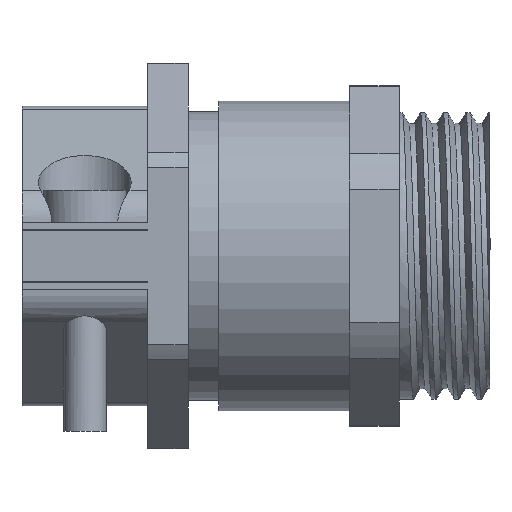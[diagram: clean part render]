
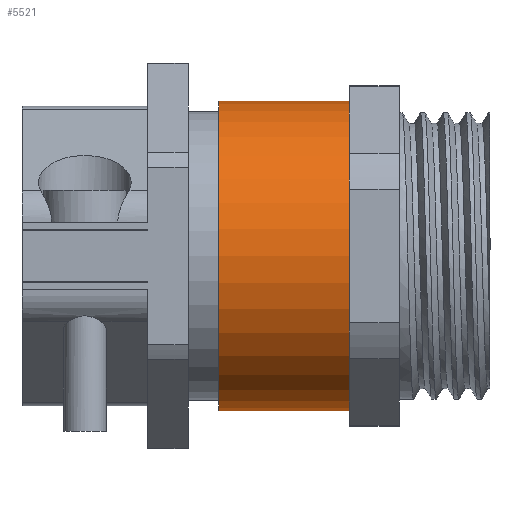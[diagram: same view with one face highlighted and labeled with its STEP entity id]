
A CAD part, front view. The second image highlights one B-rep face of the part: STEP entity #5521.
In plain terms, the highlighted cylindrical face has radius 10.85 mm (diameter 21.7 mm), a partial arc.
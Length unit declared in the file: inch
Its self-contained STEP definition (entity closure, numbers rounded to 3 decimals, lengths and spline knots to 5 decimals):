
#345 = CARTESIAN_POINT ( 'NONE',  ( -0.3878, 0., -0.42717 ) ) ;
#528 = CARTESIAN_POINT ( 'NONE',  ( -0.74803, 0., 0.42717 ) ) ;
#671 = CARTESIAN_POINT ( 'NONE',  ( -0.74803, 0., -0.42717 ) ) ;
#727 = CARTESIAN_POINT ( 'NONE',  ( 0., 0., -0.42717 ) ) ;
#728 = LINE ( 'NONE', #727, #766 ) ;
#765 = DIRECTION ( 'NONE',  ( 1., 0., 0. ) ) ;
#766 = VECTOR ( 'NONE', #765, 39.37008 ) ;
#799 = CARTESIAN_POINT ( 'NONE',  ( -0.3878, 0., 0.42717 ) ) ;
#806 = CARTESIAN_POINT ( 'NONE',  ( 0., 0., 0.42717 ) ) ;
#807 = LINE ( 'NONE', #806, #815 ) ;
#814 = DIRECTION ( 'NONE',  ( 1., 0., 0. ) ) ;
#815 = VECTOR ( 'NONE', #814, 39.37008 ) ;
#1665 = DIRECTION ( 'NONE',  ( 0., 0., -1. ) ) ;
#1666 = DIRECTION ( 'NONE',  ( 1., 0., 0. ) ) ;
#1667 = CARTESIAN_POINT ( 'NONE',  ( -0.3878, 0., 0. ) ) ;
#1668 = AXIS2_PLACEMENT_3D ( 'NONE', #1667, #1666, #1665 ) ;
#1669 = CIRCLE ( 'NONE', #1668, 0.42717 ) ;
#1966 = DIRECTION ( 'NONE',  ( 0., 0., -1. ) ) ;
#1967 = DIRECTION ( 'NONE',  ( 1., 0., 0. ) ) ;
#1968 = CARTESIAN_POINT ( 'NONE',  ( -0.74803, 0., 0. ) ) ;
#1969 = AXIS2_PLACEMENT_3D ( 'NONE', #1968, #1967, #1966 ) ;
#1970 = CIRCLE ( 'NONE', #1969, 0.42717 ) ;
#2416 = DIRECTION ( 'NONE',  ( 0., 0., -1. ) ) ;
#2417 = DIRECTION ( 'NONE',  ( 1., 0., 0. ) ) ;
#2457 = CYLINDRICAL_SURFACE ( 'NONE', #2493, 0.42717 ) ;
#2492 = CARTESIAN_POINT ( 'NONE',  ( 0., 0., 0. ) ) ;
#2493 = AXIS2_PLACEMENT_3D ( 'NONE', #2492, #2417, #2416 ) ;
#2494 = FACE_OUTER_BOUND ( 'NONE', #5492, .T. ) ;
#4728 = VERTEX_POINT ( 'NONE', #345 ) ;
#4738 = VERTEX_POINT ( 'NONE', #528 ) ;
#4794 = VERTEX_POINT ( 'NONE', #671 ) ;
#4795 = EDGE_CURVE ( 'NONE', #4794, #4728, #728, .T. ) ;
#4858 = EDGE_CURVE ( 'NONE', #4738, #4872, #807, .T. ) ;
#4872 = VERTEX_POINT ( 'NONE', #799 ) ;
#5276 = EDGE_CURVE ( 'NONE', #4872, #4728, #1669, .T. ) ;
#5467 = ORIENTED_EDGE ( 'NONE', *, *, #4795, .T. ) ;
#5468 = ORIENTED_EDGE ( 'NONE', *, *, #5276, .F. ) ;
#5488 = ORIENTED_EDGE ( 'NONE', *, *, #4858, .F. ) ;
#5489 = ORIENTED_EDGE ( 'NONE', *, *, #5490, .T. ) ;
#5490 = EDGE_CURVE ( 'NONE', #4738, #4794, #1970, .T. ) ;
#5492 = EDGE_LOOP ( 'NONE', ( #5488, #5489, #5467, #5468 ) ) ;
#5521 = ADVANCED_FACE ( 'NONE', ( #2494 ), #2457, .T. ) ;
